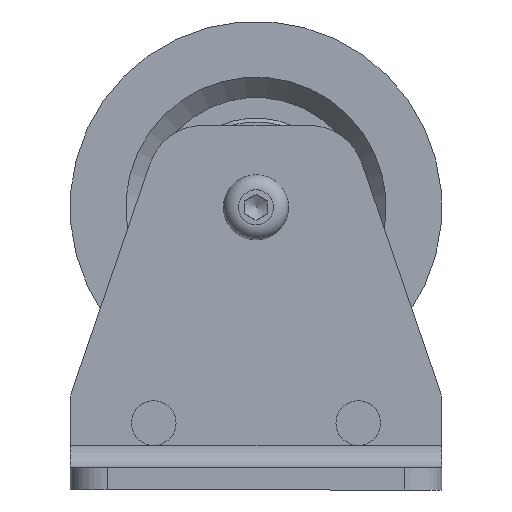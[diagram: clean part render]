
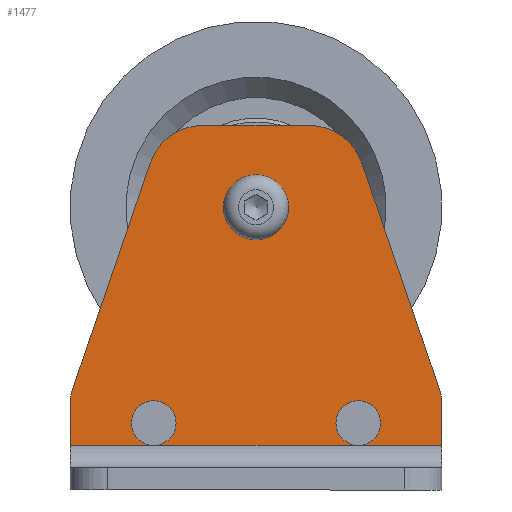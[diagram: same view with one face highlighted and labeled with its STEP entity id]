
A CAD part, front view. The second image highlights one B-rep face of the part: STEP entity #1477.
In plain terms, the highlighted planar face has unit normal (0, -1, 0) as drawn and (0, 0, 1) by its records, which use the part's own axes.
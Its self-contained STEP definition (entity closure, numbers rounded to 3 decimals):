
#108=FACE_BOUND('',#276,.T.);
#136=PLANE('',#1740);
#188=FACE_OUTER_BOUND('',#275,.T.);
#275=EDGE_LOOP('',(#1152,#1153,#1154,#1155,#1156,#1157,#1158,#1159,#1160,
#1161,#1162,#1163,#1164,#1165));
#276=EDGE_LOOP('',(#1166));
#373=LINE('',#2506,#467);
#374=LINE('',#2508,#468);
#375=LINE('',#2509,#469);
#378=LINE('',#2515,#472);
#386=LINE('',#2553,#480);
#390=LINE('',#2562,#484);
#393=LINE('',#2569,#487);
#394=LINE('',#2571,#488);
#467=VECTOR('',#1997,10.);
#468=VECTOR('',#1998,10.);
#469=VECTOR('',#1999,10.);
#472=VECTOR('',#2004,10.);
#480=VECTOR('',#2046,10.);
#484=VECTOR('',#2056,10.);
#487=VECTOR('',#2065,10.);
#488=VECTOR('',#2068,10.);
#549=CIRCLE('',#1725,6.);
#550=CIRCLE('',#1726,6.);
#551=CIRCLE('',#1728,6.);
#552=CIRCLE('',#1729,6.);
#553=CIRCLE('',#1731,5.2);
#554=CIRCLE('',#1734,15.);
#555=CIRCLE('',#1737,15.);
#667=VERTEX_POINT('',#2496);
#668=VERTEX_POINT('',#2500);
#669=VERTEX_POINT('',#2505);
#670=VERTEX_POINT('',#2507);
#672=VERTEX_POINT('',#2513);
#681=VERTEX_POINT('',#2537);
#682=VERTEX_POINT('',#2542);
#683=VERTEX_POINT('',#2547);
#684=VERTEX_POINT('',#2551);
#685=VERTEX_POINT('',#2552);
#686=VERTEX_POINT('',#2557);
#687=VERTEX_POINT('',#2561);
#688=VERTEX_POINT('',#2565);
#830=EDGE_CURVE('',#669,#668,#373,.T.);
#831=EDGE_CURVE('',#670,#669,#374,.T.);
#832=EDGE_CURVE('',#667,#670,#375,.T.);
#835=EDGE_CURVE('',#672,#668,#378,.T.);
#848=EDGE_CURVE('',#669,#681,#549,.T.);
#849=EDGE_CURVE('',#681,#669,#550,.T.);
#851=EDGE_CURVE('',#670,#682,#551,.T.);
#852=EDGE_CURVE('',#682,#670,#552,.T.);
#854=EDGE_CURVE('',#683,#683,#553,.T.);
#855=EDGE_CURVE('',#684,#685,#386,.T.);
#858=EDGE_CURVE('',#685,#686,#554,.T.);
#860=EDGE_CURVE('',#686,#687,#390,.T.);
#862=EDGE_CURVE('',#687,#688,#555,.T.);
#864=EDGE_CURVE('',#688,#672,#393,.T.);
#865=EDGE_CURVE('',#667,#684,#394,.T.);
#1152=ORIENTED_EDGE('',*,*,#830,.T.);
#1153=ORIENTED_EDGE('',*,*,#835,.F.);
#1154=ORIENTED_EDGE('',*,*,#864,.F.);
#1155=ORIENTED_EDGE('',*,*,#862,.F.);
#1156=ORIENTED_EDGE('',*,*,#860,.F.);
#1157=ORIENTED_EDGE('',*,*,#858,.F.);
#1158=ORIENTED_EDGE('',*,*,#855,.F.);
#1159=ORIENTED_EDGE('',*,*,#865,.F.);
#1160=ORIENTED_EDGE('',*,*,#832,.T.);
#1161=ORIENTED_EDGE('',*,*,#851,.T.);
#1162=ORIENTED_EDGE('',*,*,#852,.T.);
#1163=ORIENTED_EDGE('',*,*,#831,.T.);
#1164=ORIENTED_EDGE('',*,*,#848,.T.);
#1165=ORIENTED_EDGE('',*,*,#849,.T.);
#1166=ORIENTED_EDGE('',*,*,#854,.T.);
#1477=ADVANCED_FACE('',(#188,#108),#136,.T.);
#1725=AXIS2_PLACEMENT_3D('',#2539,#2028,#2029);
#1726=AXIS2_PLACEMENT_3D('',#2540,#2030,#2031);
#1728=AXIS2_PLACEMENT_3D('',#2544,#2035,#2036);
#1729=AXIS2_PLACEMENT_3D('',#2545,#2037,#2038);
#1731=AXIS2_PLACEMENT_3D('',#2549,#2042,#2043);
#1734=AXIS2_PLACEMENT_3D('',#2558,#2051,#2052);
#1737=AXIS2_PLACEMENT_3D('',#2566,#2060,#2061);
#1740=AXIS2_PLACEMENT_3D('',#2572,#2069,#2070);
#1997=DIRECTION('',(1.,0.,0.));
#1998=DIRECTION('',(1.,0.,0.));
#1999=DIRECTION('',(1.,0.,0.));
#2004=DIRECTION('',(0.,-1.,0.));
#2028=DIRECTION('center_axis',(0.,0.,-1.));
#2029=DIRECTION('ref_axis',(-1.,0.,0.));
#2030=DIRECTION('center_axis',(0.,0.,-1.));
#2031=DIRECTION('ref_axis',(-1.,0.,0.));
#2035=DIRECTION('center_axis',(0.,0.,-1.));
#2036=DIRECTION('ref_axis',(-1.,0.,0.));
#2037=DIRECTION('center_axis',(0.,0.,-1.));
#2038=DIRECTION('ref_axis',(-1.,0.,0.));
#2042=DIRECTION('center_axis',(0.,0.,-1.));
#2043=DIRECTION('ref_axis',(-1.,0.,0.));
#2046=DIRECTION('',(0.324,0.946,0.));
#2051=DIRECTION('center_axis',(0.,0.,-1.));
#2052=DIRECTION('ref_axis',(0.,1.,0.));
#2056=DIRECTION('',(1.,0.,0.));
#2060=DIRECTION('center_axis',(0.,0.,-1.));
#2061=DIRECTION('ref_axis',(0.946,0.324,0.));
#2065=DIRECTION('',(0.324,-0.946,0.));
#2068=DIRECTION('',(0.,1.,0.));
#2069=DIRECTION('center_axis',(0.,0.,1.));
#2070=DIRECTION('ref_axis',(1.,0.,0.));
#2496=CARTESIAN_POINT('',(-50.,12.,6.));
#2500=CARTESIAN_POINT('',(50.,12.,6.));
#2505=CARTESIAN_POINT('',(27.5,12.,6.));
#2506=CARTESIAN_POINT('',(25.,12.,6.));
#2507=CARTESIAN_POINT('',(-27.5,12.,6.));
#2508=CARTESIAN_POINT('',(25.,12.,6.));
#2509=CARTESIAN_POINT('',(25.,12.,6.));
#2513=CARTESIAN_POINT('',(50.,25.,6.));
#2515=CARTESIAN_POINT('',(50.,0.,6.));
#2537=CARTESIAN_POINT('',(33.5,18.,6.));
#2539=CARTESIAN_POINT('Origin',(27.5,18.,6.));
#2540=CARTESIAN_POINT('Origin',(27.5,18.,6.));
#2542=CARTESIAN_POINT('',(-21.5,18.,6.));
#2544=CARTESIAN_POINT('Origin',(-27.5,18.,6.));
#2545=CARTESIAN_POINT('Origin',(-27.5,18.,6.));
#2547=CARTESIAN_POINT('',(5.2,76.,6.));
#2549=CARTESIAN_POINT('Origin',(0.,76.,6.));
#2551=CARTESIAN_POINT('',(-50.,25.,6.));
#2552=CARTESIAN_POINT('',(-28.473,87.86,6.));
#2553=CARTESIAN_POINT('',(-28.473,87.86,6.));
#2557=CARTESIAN_POINT('',(-14.282,98.,6.));
#2558=CARTESIAN_POINT('Origin',(-14.282,83.,6.));
#2561=CARTESIAN_POINT('',(14.282,98.,6.));
#2562=CARTESIAN_POINT('',(14.282,98.,6.));
#2565=CARTESIAN_POINT('',(28.473,87.86,6.));
#2566=CARTESIAN_POINT('Origin',(14.282,83.,6.));
#2569=CARTESIAN_POINT('',(50.,25.,6.));
#2571=CARTESIAN_POINT('',(-50.,25.,6.));
#2572=CARTESIAN_POINT('Origin',(0.,41.393,6.));
